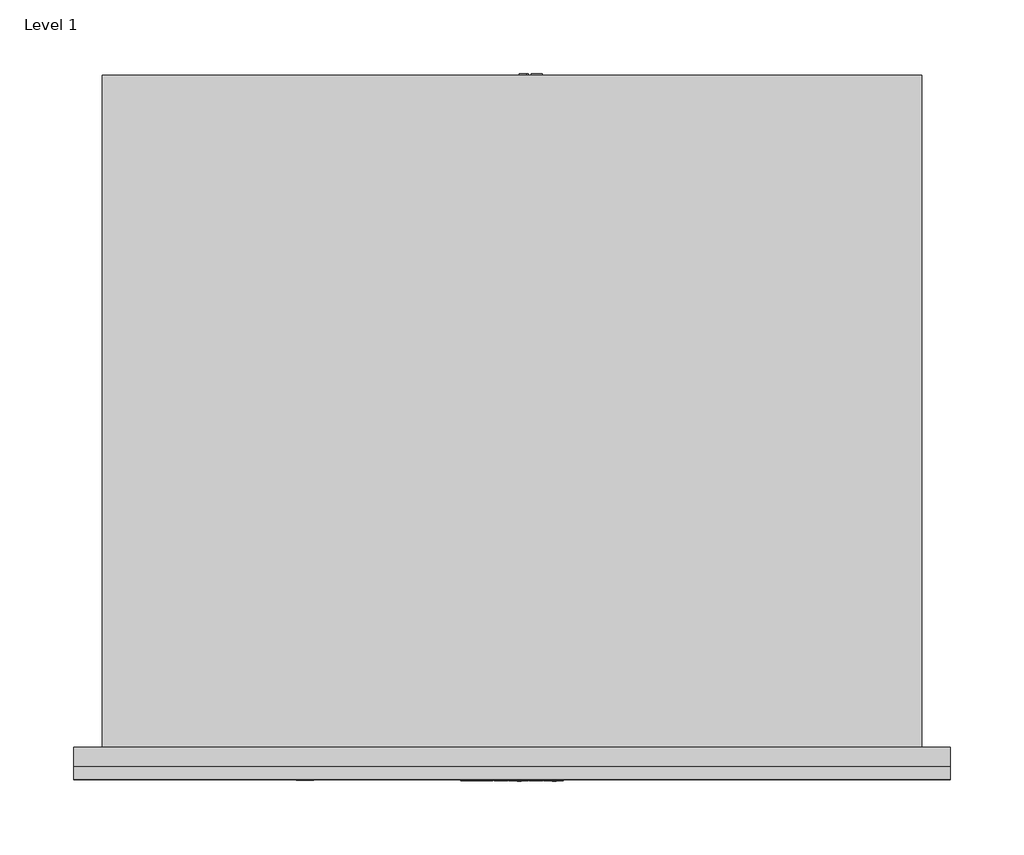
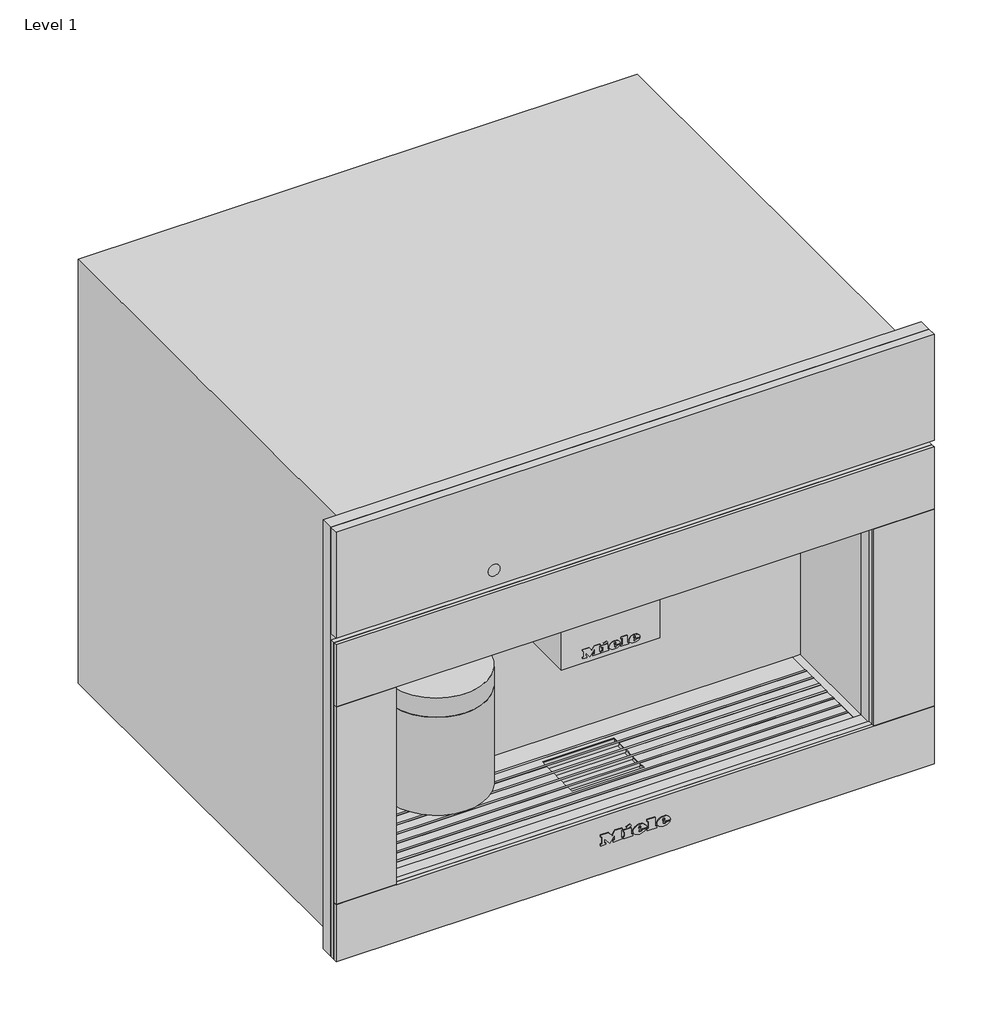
# One storey: 1 proxy.
"""IFC4 building model written with IfcOpenShell, lengths in millimetres."""

from ifc_helpers import new_model, si_unit, origin, place, context, project, spatial, transform, mapped, element, save
from components import specialty_equipment_f7a23d79

model = new_model("IFC4")

# Units and contexts
model_context = context("Model", 3, world=origin())
ifc_project = project(units=[si_unit("LENGTHUNIT", "METRE", prefix="MILLI")], contexts=[model_context])

# Site, building, storey
site = spatial("IfcSite", under=ifc_project)
building = spatial("IfcBuilding", under=site)
storey = spatial("IfcBuildingStorey", under=building, Name="Level 1", Elevation=0.0)

# Proxy
placement = place(None, origin())
specialty_equipment_shape = specialty_equipment_f7a23d79(model_context)
element("IfcBuildingElementProxy", 1, Name="11164750_CZ_CVA7440_GRGR : 29744030_CZ_11164750_CVA7440_GRGR", ObjectType="11164750_CZ_CVA7440_GRGR : 29744030_CZ_11164750_CVA7440_GRGR", at=placement, inside=storey, context=model_context, shape_type="MappedRepresentation", body=[
    mapped(specialty_equipment_shape, transform((0.0, 0.0, 0.0), x_axis=(1.0, 0.0, 0.0), y_axis=(0.0, 1.0, 0.0), z_axis=(0.0, 0.0, 1.0))),
])

save(model, "model.ifc")
